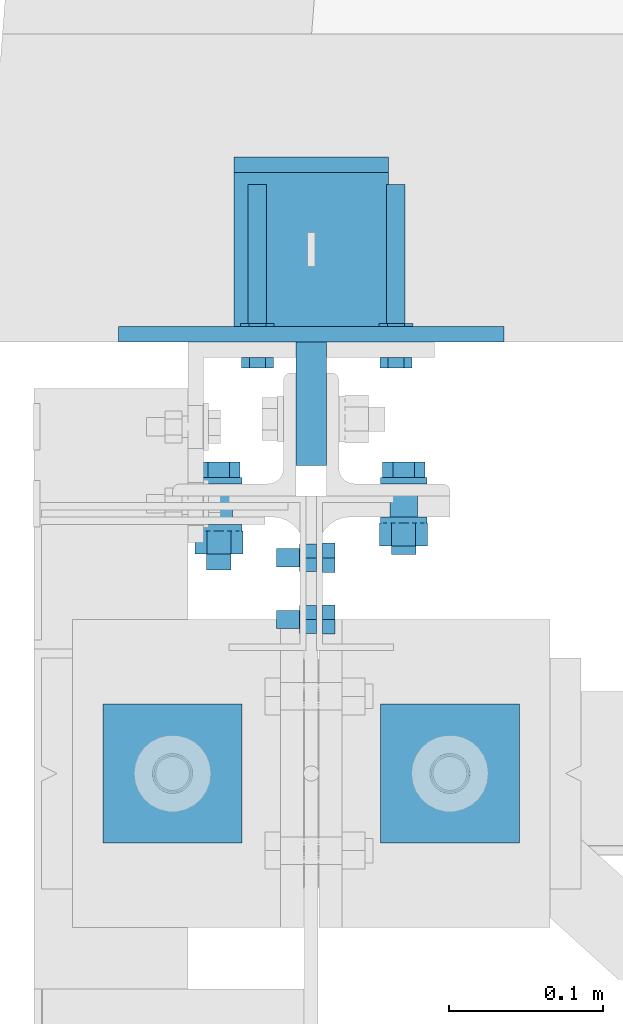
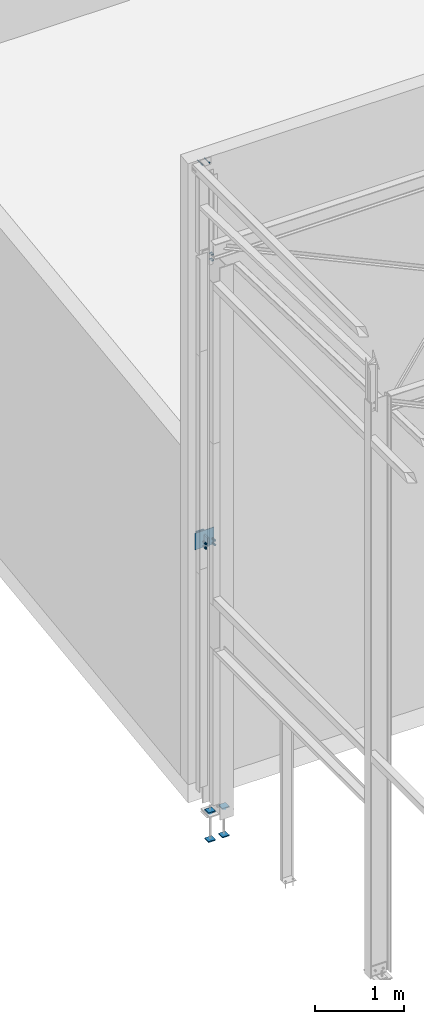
# One storey, part 75 of 123: 8 discrete accessories, 5 mechanical fasteners, 6 elements without a shape of their own.
"""IFC2X3 building model written with IfcOpenShell, lengths in millimetres."""

from ifc_helpers import new_model, si_unit, frame, origin_with_axes, origin_2d_with_axis, place, context, subcontext, project, spatial, polyline, rectangle, circle, i_section, outline, extrude, source, transform, mapped, material, type_object, element, aggregate, save


model = new_model("IFC2X3")

# Units and contexts
model_context = context("Model", 3, precision=1e-05, world=origin_with_axes())
body_context = subcontext(model_context, "Body", "Model", "MODEL_VIEW")
ifc_project = project(units=[si_unit("LENGTHUNIT", "METRE", prefix="MILLI"), si_unit("AREAUNIT", "SQUARE_METRE"), si_unit("VOLUMEUNIT", "CUBIC_METRE"), si_unit("MASSUNIT", "GRAM", prefix="KILO"), si_unit("TIMEUNIT", "SECOND"), si_unit("PLANEANGLEUNIT", "RADIAN"), si_unit("SOLIDANGLEUNIT", "STERADIAN"), si_unit("THERMODYNAMICTEMPERATUREUNIT", "DEGREE_CELSIUS"), si_unit("LUMINOUSINTENSITYUNIT", "LUMEN")], contexts=[model_context])

# Site, building, storey
site_placement = place(None, origin_with_axes())
site = spatial("IfcSite", under=ifc_project, at=site_placement, Name="Undefined", CompositionType="ELEMENT")
building_placement = place(site_placement, origin_with_axes())
building = spatial("IfcBuilding", under=site, at=building_placement, Name="Undefined", CompositionType="ELEMENT")
storey_placement = place(building_placement, origin_with_axes())
storey = spatial("IfcBuildingStorey", under=building, at=storey_placement, Name="Undefined", CompositionType="ELEMENT", Elevation=0.0)

# Assembly, mechanical fastener
assembly_1_placement = place(storey_placement, origin_with_axes())
assembly_1 = element("IfcElementAssembly", 1, at=assembly_1_placement, inside=storey, Name="Steel Assembly", AssemblyPlace="NOTDEFINED", PredefinedType="RIGID_FRAME")
ifc_material_1 = material(Name="8.8-SB-Z")
discrete_accessory_type_1 = type_object("IfcDiscreteAccessoryType", Name="Bolt assembly")
shared_shape_1 = source(origin_with_axes(), body_context, "Body", "SweptSolid", [
    extrude(circle(Radius=7.0, at=origin_2d_with_axis()), frame((0.0, -7.29999995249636, 0.0), z_axis=(0.0, 1.0, 0.0), x_axis=(1.0, 0.0, 0.0)), (0.0, 0.0, 1.0), 4.1),
    extrude(outline(polyline([(10.96965511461, 0.0), (5.484827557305, 9.50000000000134), (-5.484827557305, 9.50000000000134), (-10.96965511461, 0.0), (-5.484827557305, -9.50000000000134), (5.484827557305, -9.50000000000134), (10.96965511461, 0.0)])), frame((0.0, -15.2999999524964, 0.0), z_axis=(0.0, 1.0, 0.0), x_axis=(1.0, 0.0, 0.0)), (0.0, 0.0, 1.0), 8.0),
    extrude(circle(Radius=6.0, at=origin_2d_with_axis()), frame((0.0, -7.29999995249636, 0.0), z_axis=(0.0, 1.0, 0.0), x_axis=(1.0, 0.0, 0.0)), (0.0, 0.0, 1.0), 30.0),
    extrude(outline(polyline([(10.39230484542, 0.0), (5.19615242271, 9.00000000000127), (-5.19615242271, 9.00000000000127), (-10.39230484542, 0.0), (-5.19615242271, -9.00000000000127), (5.19615242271, -9.00000000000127), (10.39230484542, 0.0)])), frame((0.0, -3.29999995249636, 0.0), z_axis=(0.0, 1.0, 0.0), x_axis=(1.0, 0.0, 0.0)), (0.0, 0.0, 1.0), 10.8),
])
mechanical_fastener_1_placement = place(assembly_1_placement, frame((7.68471326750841e-06, 15229.9917895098, 7255.00301431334), z_axis=(0.0, -1.0, 0.0), x_axis=(0.0, 0.0, 1.0)))
mechanical_fastener_1 = element("IfcMechanicalFastener", 2, at=mechanical_fastener_1_placement, type_object=discrete_accessory_type_1, material=ifc_material_1, Name="Bolt assembly", NominalDiameter=12.0, NominalLength=30.0, context=body_context, shape_type="MappedRepresentation", body=[
    mapped(shared_shape_1, transform((0.0, 0.0, 20.0))),
    mapped(shared_shape_1, transform((80.0, 0.0, 20.0))),
    mapped(shared_shape_1, transform((0.0, 0.0, -20.0))),
    mapped(shared_shape_1, transform((80.0, 0.0, -20.0))),
])
aggregate(assembly_1, [mechanical_fastener_1])

# Assembly, discrete accessories
assembly_2_placement = place(storey_placement, origin_with_axes())
assembly_2 = element("IfcElementAssembly", 3, at=assembly_2_placement, inside=storey, Name="Steel Assembly", AssemblyPlace="NOTDEFINED", PredefinedType="RIGID_FRAME")
ifc_material_2 = material(Name="STEEL/S235-E24")
discrete_accessory_type_2 = type_object("IfcDiscreteAccessoryType", Name="PLAT")
discrete_accessory_1_placement = place(assembly_2_placement, frame((0.0, 15505.0, 3363.0), z_axis=(0.0, 1.0, 0.0), x_axis=(0.0, 0.0, -1.0)))
discrete_accessory_1 = element("IfcDiscreteAccessory", 4, at=discrete_accessory_1_placement, type_object=discrete_accessory_type_2, material=ifc_material_2, Name="PLAT", ObjectType="PL10*100", context=body_context, shape_type="SweptSolid", body=[
    extrude(outline(polyline([(96.0, 50.0), (96.0, -50.0), (0.0, -50.0), (0.0, 50.0), (96.0, 50.0)])), frame((0.0, 0.0, -5.0), z_axis=(0.0, 0.0, 1.0), x_axis=(1.0, 0.0, 0.0)), (0.0, 0.0, 1.0), 10.0),
])
discrete_accessory_2_placement = place(assembly_2_placement, frame((0.0, 15350.0, 3375.0), z_axis=(0.0, -1.0, 0.0), x_axis=(0.0, 0.0, -1.0)))
discrete_accessory_2 = element("IfcDiscreteAccessory", 5, at=discrete_accessory_2_placement, type_object=discrete_accessory_type_2, material=ifc_material_2, Name="PLAT", ObjectType="PL20*80", context=body_context, shape_type="SweptSolid", body=[
    extrude(rectangle(XDim=20.0, YDim=80.0, at=origin_2d_with_axis()), frame((120.0, 0.0, 0.0), z_axis=(-1.0, 0.0, 0.0), x_axis=(0.0, -1.0, 0.0)), (0.0, 0.0, 1.0), 120.0),
])
ifc_material_3 = material(Name="STEEL/S275-E28")
discrete_accessory_type_3 = type_object("IfcDiscreteAccessoryType", Name="BECHE")
discrete_accessory_3_placement = place(assembly_2_placement, frame((0.0, 15400.0, 3315.0), z_axis=(0.0, 0.0, 1.0), x_axis=(0.0, 1.0, 0.0)))
discrete_accessory_3 = element("IfcDiscreteAccessory", 6, at=discrete_accessory_3_placement, type_object=discrete_accessory_type_3, material=ifc_material_3, Name="BECHE", ObjectType="HEA100", context=body_context, shape_type="SweptSolid", body=[
    extrude(i_section(OverallWidth=100.0, OverallDepth=96.0, WebThickness=5.0, FlangeThickness=8.0, FilletRadius=12.0, at=origin_2d_with_axis()), frame((99.9999999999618, 0.0, 0.0), z_axis=(-1.0, 0.0, 0.0), x_axis=(0.0, -1.0, 0.0)), (0.0, 0.0, 1.0), 100.0),
])
discrete_accessory_type_4 = type_object("IfcDiscreteAccessoryType", Name="PRESCELLEMENT")
discrete_accessory_4_placement = place(assembly_2_placement, frame((0.0, 15395.0, 3430.0), z_axis=(0.0, 1.0, 0.0), x_axis=(0.0, 0.0, -1.0)))
discrete_accessory_4 = element("IfcDiscreteAccessory", 7, at=discrete_accessory_4_placement, type_object=discrete_accessory_type_4, material=ifc_material_2, Name="PRESCELLEMENT", ObjectType="PL10*250", context=body_context, shape_type="SweptSolid", body=[
    extrude(outline(polyline([(230.0, 125.0), (230.0, -125.0), (0.0, -125.0), (0.0, 125.0), (230.0, 125.0)])), frame((0.0, 0.0, -5.0), z_axis=(0.0, 0.0, 1.0), x_axis=(1.0, 0.0, 0.0)), (0.0, 0.0, 1.0), 10.0),
])
aggregate(assembly_2, [discrete_accessory_1, discrete_accessory_3, discrete_accessory_4, discrete_accessory_2])

# Assembly, mechanical fastener
assembly_3_placement = place(storey_placement, origin_with_axes())
assembly_3 = element("IfcElementAssembly", 8, at=assembly_3_placement, inside=storey, Name="Steel Assembly", AssemblyPlace="NOTDEFINED", PredefinedType="RIGID_FRAME")
ifc_material_4 = material(Name="INOX_A4")
shared_shape_2 = source(origin_with_axes(), body_context, "Body", "SweptSolid", [
    extrude(circle(Radius=7.0, at=origin_2d_with_axis()), frame((0.0, -10.0, 0.0), z_axis=(0.0, 1.0, 0.0), x_axis=(1.0, 0.0, 0.0)), (0.0, 0.0, 1.0), 10.1),
    extrude(outline(polyline([(10.39230484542, 0.0), (5.19615242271, 9.00000000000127), (-5.19615242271, 9.00000000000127), (-10.39230484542, 0.0), (-5.19615242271, -9.00000000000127), (5.19615242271, -9.00000000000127), (10.39230484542, 0.0)])), frame((0.0, -16.8000001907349, 0.0), z_axis=(0.0, 1.0, 0.0), x_axis=(1.0, 0.0, 0.0)), (0.0, 0.0, 1.0), 6.8),
    extrude(circle(Radius=6.0, at=origin_2d_with_axis()), frame((0.0, -10.0, 0.0), z_axis=(0.0, 1.0, 0.0), x_axis=(1.0, 0.0, 0.0)), (0.0, 0.0, 1.0), 112.2),
    extrude(outline(polyline([(10.96965511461, 0.0), (5.484827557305, 9.50000000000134), (-5.484827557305, 9.50000000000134), (-10.96965511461, 0.0), (-5.484827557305, -9.50000000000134), (5.484827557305, -9.50000000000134), (10.96965511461, 0.0)])), frame((0.0, 0.0, 0.0), z_axis=(0.0, 1.0, 0.0), x_axis=(1.0, 0.0, 0.0)), (0.0, 0.0, 1.0), 12.0),
])
mechanical_fastener_2_placement = place(assembly_3_placement, frame((55.0, 15390.0, 8480.0), z_axis=(0.0, 0.0, -1.0), x_axis=(-1.0, 0.0, 0.0)))
mechanical_fastener_2 = element("IfcMechanicalFastener", 9, at=mechanical_fastener_2_placement, type_object=discrete_accessory_type_1, material=ifc_material_4, Name="Bolt assembly", NominalDiameter=12.0, NominalLength=112.199996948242, context=body_context, shape_type="MappedRepresentation", body=[
    mapped(shared_shape_2, transform((0.0, 0.0, 0.0))),
    mapped(shared_shape_2, transform((90.0, 0.0, 0.0))),
])
aggregate(assembly_3, [mechanical_fastener_2])

assembly_4_placement = place(storey_placement, origin_with_axes())
assembly_4 = element("IfcElementAssembly", 10, at=assembly_4_placement, inside=storey, Name="Steel Assembly", AssemblyPlace="NOTDEFINED", PredefinedType="RIGID_FRAME")
ifc_material_5 = material(Name="HR10.9")
shared_shape_3 = source(origin_with_axes(), body_context, "Body", "SweptSolid", [
    extrude(circle(Radius=9.0, at=origin_2d_with_axis()), frame((0.0, 0.0, 0.0), z_axis=(0.0, 1.0, 0.0), x_axis=(1.0, 0.0, 0.0)), (0.0, 0.0, 1.0), 13.5),
    extrude(circle(Radius=9.0, at=origin_2d_with_axis()), frame((0.0, -7.9, 0.0), z_axis=(0.0, 1.0, 0.0), x_axis=(1.0, 0.0, 0.0)), (0.0, 0.0, 1.0), 8.0),
    extrude(circle(Radius=9.0, at=origin_2d_with_axis()), frame((0.0, 13.3999956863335, 0.0), z_axis=(0.0, 1.0, 0.0), x_axis=(1.0, 0.0, 0.0)), (0.0, 0.0, 1.0), 5.1),
    extrude(outline(polyline([(13.85640646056, 0.0), (6.92820323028, 12.0000000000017), (-6.92820323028, 12.0000000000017), (-13.85640646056, 0.0), (-6.92820323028, -12.0000000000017), (6.92820323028, -12.0000000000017), (13.85640646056, 0.0)])), frame((0.0, -22.0, 0.0), z_axis=(0.0, 1.0, 0.0), x_axis=(1.0, 0.0, 0.0)), (0.0, 0.0, 1.0), 10.0),
    extrude(circle(Radius=8.0, at=origin_2d_with_axis()), frame((0.0, -12.0, 0.0), z_axis=(0.0, 1.0, 0.0), x_axis=(1.0, 0.0, 0.0)), (0.0, 0.0, 1.0), 60.0),
    extrude(circle(Radius=15.0, at=origin_2d_with_axis()), frame((0.0, -12.0, 0.0), z_axis=(0.0, 1.0, 0.0), x_axis=(1.0, 0.0, 0.0)), (0.0, 0.0, 1.0), 4.0),
    extrude(circle(Radius=15.0, at=origin_2d_with_axis()), frame((0.0, 18.4999956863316, 0.0), z_axis=(0.0, 1.0, 0.0), x_axis=(1.0, 0.0, 0.0)), (0.0, 0.0, 1.0), 4.0),
    extrude(outline(polyline([(15.58845726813, 0.0), (7.794228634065, 13.5000000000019), (-7.794228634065, 13.5000000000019), (-15.58845726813, 0.0), (-7.794228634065, -13.5000000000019), (7.794228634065, -13.5000000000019), (15.58845726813, 0.0)])), frame((0.0, 22.4999956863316, 0.0), z_axis=(0.0, 1.0, 0.0), x_axis=(1.0, 0.0, 0.0)), (0.0, 0.0, 1.0), 15.0),
])
mechanical_fastener_3_placement = place(assembly_4_placement, frame((-60.0, 15290.0000024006, 3315.0), z_axis=(0.0, 0.0, -1.0), x_axis=(1.0, 0.0, 0.0)))
mechanical_fastener_3 = element("IfcMechanicalFastener", 11, at=mechanical_fastener_3_placement, type_object=discrete_accessory_type_1, material=ifc_material_5, Name="Bolt assembly", NominalDiameter=16.0, NominalLength=60.0, context=body_context, shape_type="MappedRepresentation", body=[
    mapped(shared_shape_3, transform((0.0, 0.0, -30.0))),
    mapped(shared_shape_3, transform((0.0, 0.0, 30.0))),
])
aggregate(assembly_4, [mechanical_fastener_3])

assembly_5_placement = place(storey_placement, origin_with_axes())
assembly_5 = element("IfcElementAssembly", 12, at=assembly_5_placement, inside=storey, Name="Steel Assembly", AssemblyPlace="NOTDEFINED", PredefinedType="RIGID_FRAME")
shared_shape_4 = source(origin_with_axes(), body_context, "Body", "SweptSolid", [
    extrude(circle(Radius=9.0, at=origin_2d_with_axis()), frame((0.0, -0.100000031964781, 0.0), z_axis=(0.0, 1.0, 0.0), x_axis=(1.0, 0.0, 0.0)), (0.0, 0.0, 1.0), 13.6),
    extrude(circle(Radius=9.0, at=origin_2d_with_axis()), frame((0.0, -7.9, 0.0), z_axis=(0.0, 1.0, 0.0), x_axis=(1.0, 0.0, 0.0)), (0.0, 0.0, 1.0), 8.0),
    extrude(outline(polyline([(13.85640646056, 0.0), (6.92820323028, 12.0000000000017), (-6.92820323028, 12.0000000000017), (-13.85640646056, 0.0), (-6.92820323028, -12.0000000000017), (6.92820323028, -12.0000000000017), (13.85640646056, 0.0)])), frame((0.0, -22.0, 0.0), z_axis=(0.0, 1.0, 0.0), x_axis=(1.0, 0.0, 0.0)), (0.0, 0.0, 1.0), 10.0),
    extrude(circle(Radius=8.0, at=origin_2d_with_axis()), frame((0.0, -12.0, 0.0), z_axis=(0.0, 1.0, 0.0), x_axis=(1.0, 0.0, 0.0)), (0.0, 0.0, 1.0), 50.0),
    extrude(circle(Radius=15.0, at=origin_2d_with_axis()), frame((0.0, -12.0, 0.0), z_axis=(0.0, 1.0, 0.0), x_axis=(1.0, 0.0, 0.0)), (0.0, 0.0, 1.0), 4.0),
    extrude(circle(Radius=15.0, at=origin_2d_with_axis()), frame((0.0, 13.5, 0.0), z_axis=(0.0, 1.0, 0.0), x_axis=(1.0, 0.0, 0.0)), (0.0, 0.0, 1.0), 4.0),
    extrude(outline(polyline([(15.58845726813, 0.0), (7.794228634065, 13.5000000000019), (-7.794228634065, 13.5000000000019), (-15.58845726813, 0.0), (-7.794228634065, -13.5000000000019), (7.794228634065, -13.5000000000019), (15.58845726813, 0.0)])), frame((0.0, 17.5, 0.0), z_axis=(0.0, 1.0, 0.0), x_axis=(1.0, 0.0, 0.0)), (0.0, 0.0, 1.0), 15.0),
])
mechanical_fastener_4_placement = place(assembly_5_placement, frame((60.0, 15290.0000024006, 3315.0), z_axis=(0.0, 0.0, 1.0), x_axis=(-1.0, 0.0, 0.0)))
mechanical_fastener_4 = element("IfcMechanicalFastener", 13, at=mechanical_fastener_4_placement, type_object=discrete_accessory_type_1, material=ifc_material_5, Name="Bolt assembly", NominalDiameter=16.0, NominalLength=50.0, context=body_context, shape_type="MappedRepresentation", body=[
    mapped(shared_shape_4, transform((0.0, 0.0, -30.0))),
    mapped(shared_shape_4, transform((0.0, 0.0, 30.0))),
])
aggregate(assembly_5, [mechanical_fastener_4])

# Assembly, mechanical fastener, discrete accessories
assembly_6_placement = place(storey_placement, origin_with_axes())
assembly_6 = element("IfcElementAssembly", 14, at=assembly_6_placement, inside=storey, Name="Steel Assembly", AssemblyPlace="NOTDEFINED", PredefinedType="RIGID_FRAME")
ifc_material_6 = material(Name="6.8")
shared_shape_5 = source(origin_with_axes(), body_context, "Body", "SweptSolid", [
    extrude(circle(Radius=13.0, at=origin_2d_with_axis()), frame((0.0, 0.0, 0.0), z_axis=(0.0, 1.0, 0.0), x_axis=(1.0, 0.0, 0.0)), (0.0, 0.0, 1.0), 10.1),
])
mechanical_fastener_5_placement = place(assembly_6_placement, frame((7.3411058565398e-08, 15109.9999996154, -250.0), z_axis=(-1.0, 0.0, 0.0), x_axis=(0.0, 1.0, 0.0)))
mechanical_fastener_5 = element("IfcMechanicalFastener", 15, at=mechanical_fastener_5_placement, type_object=discrete_accessory_type_1, material=ifc_material_6, Name="Bolt assembly", NominalDiameter=24.0, NominalLength=10.0, context=body_context, shape_type="MappedRepresentation", body=[
    mapped(shared_shape_5, transform((-4.00177668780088e-11, 0.0, -90.0))),
    mapped(shared_shape_5, transform((4.00177668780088e-11, 0.0, 90.0))),
])
discrete_accessory_type_5 = type_object("IfcDiscreteAccessoryType", Name="PLAQUETTE")
discrete_accessory_5_placement = place(assembly_6_placement, frame((-45.0028495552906, 15064.9999996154, -227.5), z_axis=(0.0, 0.0, 1.0), x_axis=(0.0, 1.0, 0.0)))
discrete_accessory_5 = element("IfcDiscreteAccessory", 16, at=discrete_accessory_5_placement, type_object=discrete_accessory_type_5, material=ifc_material_2, Name="PLAQUETTE", ObjectType="PL15*90", context=body_context, shape_type="SweptSolid", body=[
    extrude(outline(polyline([(0.0, 0.0), (90.0, 0.0), (90.0, 90.0), (0.0, 90.0), (0.0, 0.0)])), frame((0.0, 0.0, -7.5), z_axis=(0.0, 0.0, 1.0), x_axis=(1.0, 0.0, 0.0)), (0.0, 0.0, 1.0), 15.0),
])
discrete_accessory_6_placement = place(assembly_6_placement, frame((134.997150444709, 15064.9999996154, -227.5), z_axis=(0.0, 0.0, 1.0), x_axis=(0.0, 1.0, 0.0)))
discrete_accessory_6 = element("IfcDiscreteAccessory", 17, at=discrete_accessory_6_placement, type_object=discrete_accessory_type_5, material=ifc_material_2, Name="PLAQUETTE", ObjectType="PL15*90", context=body_context, shape_type="SweptSolid", body=[
    extrude(outline(polyline([(0.0, 0.0), (90.0, 0.0), (90.0, 90.0), (0.0, 90.0), (0.0, 0.0)])), frame((0.0, 0.0, -7.5), z_axis=(0.0, 0.0, 1.0), x_axis=(1.0, 0.0, 0.0)), (0.0, 0.0, 1.0), 15.0),
])
discrete_accessory_7_placement = place(assembly_6_placement, frame((-45.0028495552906, 15064.9999996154, -622.5), z_axis=(0.0, 0.0, 1.0), x_axis=(0.0, 1.0, 0.0)))
discrete_accessory_7 = element("IfcDiscreteAccessory", 18, at=discrete_accessory_7_placement, type_object=discrete_accessory_type_5, material=ifc_material_2, Name="PLAQUETTE", ObjectType="PL15*90", context=body_context, shape_type="SweptSolid", body=[
    extrude(outline(polyline([(0.0, 0.0), (90.0, 0.0), (90.0, 90.0), (0.0, 90.0), (0.0, 0.0)])), frame((0.0, 0.0, -7.5), z_axis=(0.0, 0.0, 1.0), x_axis=(1.0, 0.0, 0.0)), (0.0, 0.0, 1.0), 15.0),
])
discrete_accessory_8_placement = place(assembly_6_placement, frame((134.997150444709, 15064.9999996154, -622.5), z_axis=(0.0, 0.0, 1.0), x_axis=(0.0, 1.0, 0.0)))
discrete_accessory_8 = element("IfcDiscreteAccessory", 19, at=discrete_accessory_8_placement, type_object=discrete_accessory_type_5, material=ifc_material_2, Name="PLAQUETTE", ObjectType="PL15*90", context=body_context, shape_type="SweptSolid", body=[
    extrude(outline(polyline([(0.0, 0.0), (90.0, 0.0), (90.0, 90.0), (0.0, 90.0), (0.0, 0.0)])), frame((0.0, 0.0, -7.5), z_axis=(0.0, 0.0, 1.0), x_axis=(1.0, 0.0, 0.0)), (0.0, 0.0, 1.0), 15.0),
])
aggregate(assembly_6, [mechanical_fastener_5, discrete_accessory_5, discrete_accessory_6, discrete_accessory_7, discrete_accessory_8])

save(model, "model.ifc")
